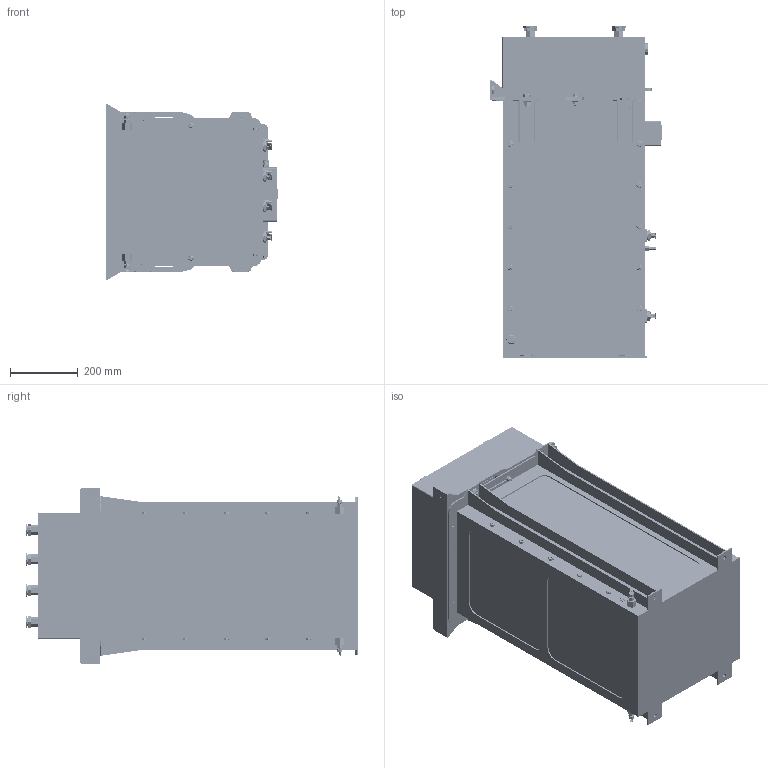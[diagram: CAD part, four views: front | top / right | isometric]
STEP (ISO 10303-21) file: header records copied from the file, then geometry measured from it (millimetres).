
FILE_DESCRIPTION (( 'STEP AP203' ), '1' );
FILE_NAME ('ﾐﾑﾌﾊ-4ﾀ IP65.STEP', '2024-04-08T13:36:07', ( '' ), ( '' ), 'SwSTEP 2.0', 'SolidWorks 2020', '' );
FILE_SCHEMA (( 'CONFIG_CONTROL_DESIGN' ));
Products named in the file (1): ﾐﾑﾌﾊ-4ﾀ IP65
Bounding box: 505 x 977.58 x 516 mm (x, y, z)
Topology: 306 solids, 461 shells, 18092 faces, 44508 edges, 28208 vertices
Faces by surface type: cylinder 8175, plane 6896, cone 1147, torus 1074, bspline 760, sphere 40
Entity records: 891958 total; most frequent: CARTESIAN_POINT 485699, ORIENTED_EDGE 88552, DIRECTION 81605, EDGE_CURVE 44276, AXIS2_PLACEMENT_3D 30131, VERTEX_POINT 28245, VECTOR 21343, LINE 21343
